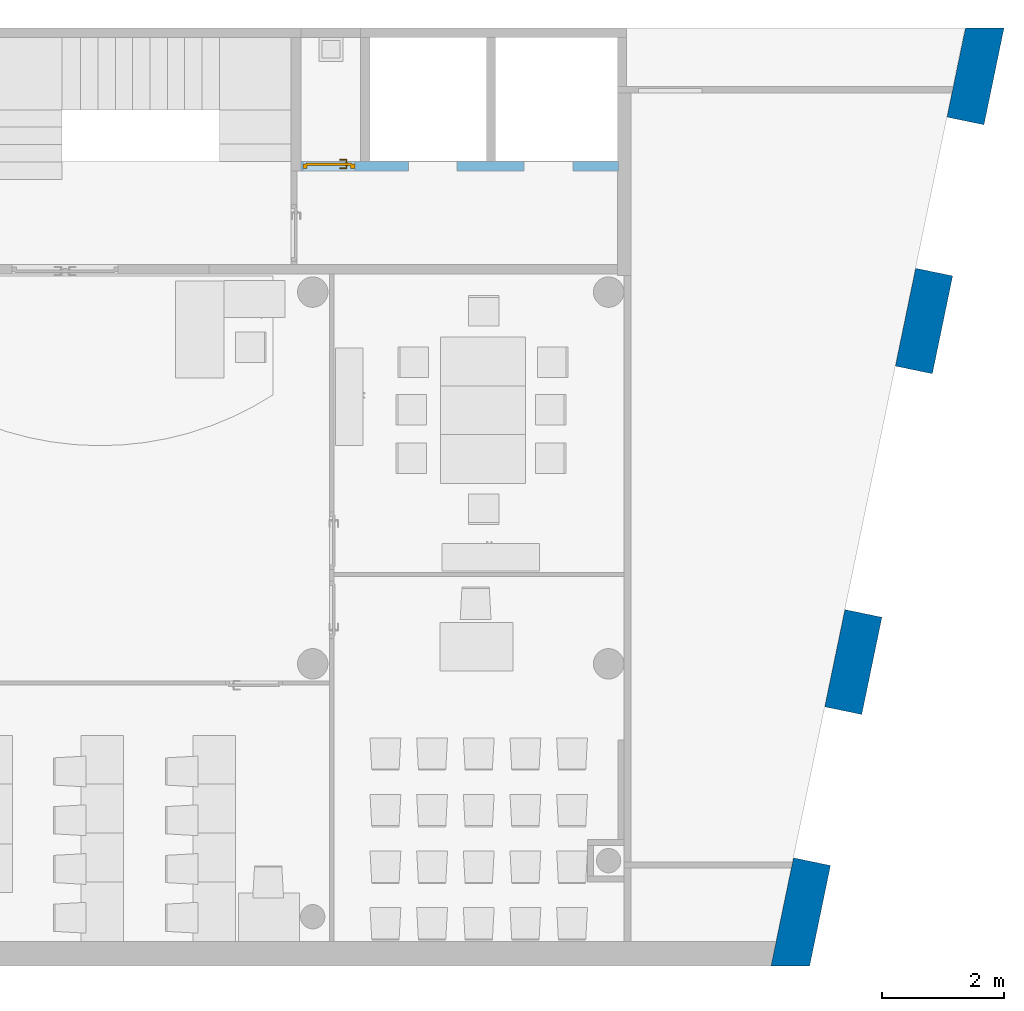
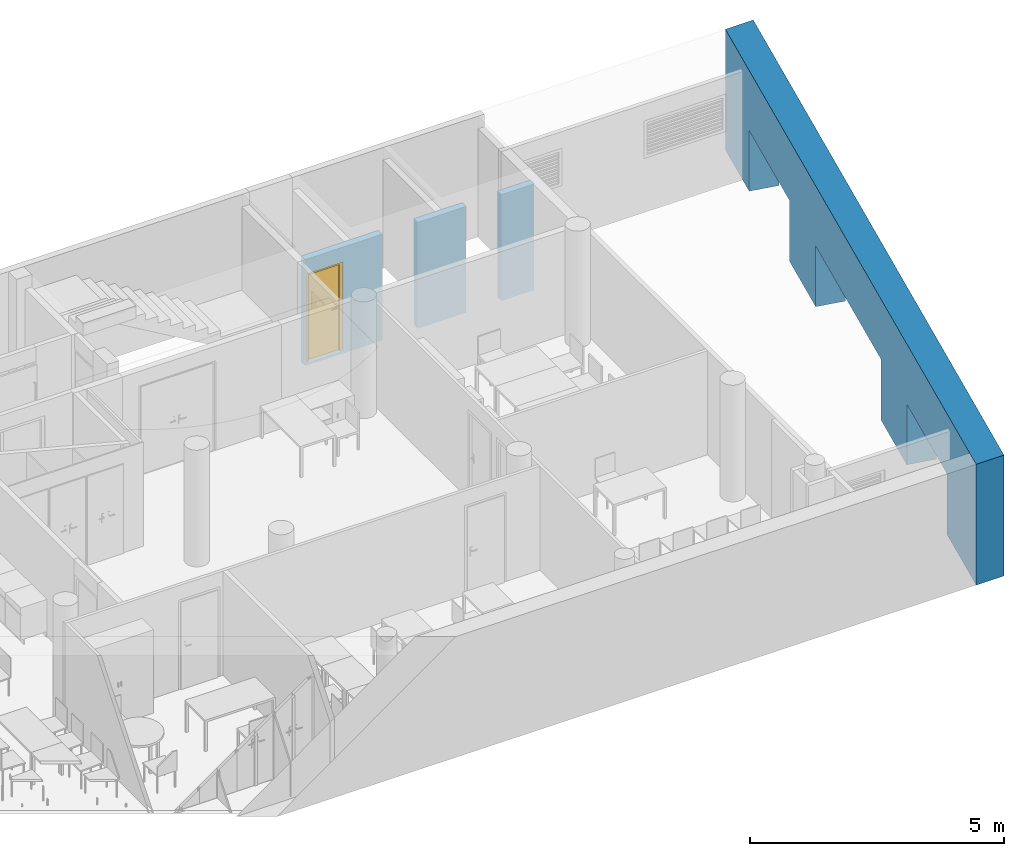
"""IFC4 building model written with IfcOpenShell, lengths in metres."""

import ifcopenshell
import ifcopenshell.guid

model = None  # the IFC model being written
_history = None  # IfcOwnerHistory: only IFC2X3 demands one
_inside = {}  # id of a spatial element -> (the spatial element, [elements in it])
_under = {}  # id of a project, library or spatial element -> (it, [spatial elements below it])
_declared = {}  # id of a project -> (the project, [libraries it declares])
_typed = {}  # id of a type object -> (the type object, [elements of that type])
_made_of = {}  # id of a material, layer set ... -> (it, [elements and type objects made of it])


def new_model(schema):
    """Start an empty IFC model of exactly this schema.

    Asked for "IFC4X3", IfcOpenShell would pick the latest addendum, in which some entities
    have other attributes; the version numbers below select the first issue.
    IFC2X3 requires an IfcOwnerHistory on every rooted entity: one is made here for all.
    """
    global model, _history
    if schema == "IFC4X3":
        model = ifcopenshell.file(schema_version=(4, 3, 0, 0))
    else:
        model = ifcopenshell.file(schema=schema)
    _inside.clear()
    _under.clear()
    _declared.clear()
    _typed.clear()
    _made_of.clear()
    _history = None
    if model.schema == "IFC2X3":
        org = make("IfcOrganization", Name="unknown")
        user = make(
            "IfcPersonAndOrganization",
            ThePerson=make("IfcPerson", FamilyName="unknown"),
            TheOrganization=org,
        )
        app = make(
            "IfcApplication",
            ApplicationDeveloper=org,
            Version="unknown",
            ApplicationFullName="unknown",
            ApplicationIdentifier="unknown",
        )
        _history = make(
            "IfcOwnerHistory",
            OwningUser=user,
            OwningApplication=app,
            ChangeAction="ADDED",
            CreationDate=0,
        )
    return model


def make(cls, **values):
    """One entity of the class cls with the attributes given. An attribute that is None is left unset."""
    return model.create_entity(
        cls, **{name: value for name, value in values.items() if value is not None}
    )


def entity(cls, *values):
    """Any entity or typed value of the class cls, its attributes in the order of the schema. None: left unset."""
    e = model.create_entity(cls)
    for i, value in enumerate(values):
        if value is not None:
            e[i] = value
    return e


def rooted(cls, **values):
    """An entity with a GlobalId (a new one), such as an element, a storey or a relation."""
    return make(cls, GlobalId=ifcopenshell.guid.new(), OwnerHistory=_history, **values)


def si_unit(unit_type, name, prefix=None):
    """IfcSIUnit, for example si_unit("LENGTHUNIT", "METRE", prefix="MILLI")."""
    return make("IfcSIUnit", UnitType=unit_type, Prefix=prefix, Name=name)


def converted_unit(unit_type, name, factor, base, dimensions=None, offset=None):
    """IfcConversionBasedUnit, such as the inch: factor (a typed value) times the base unit."""
    return make(
        "IfcConversionBasedUnit"
        if offset is None
        else "IfcConversionBasedUnitWithOffset",
        ConversionOffset=offset,
        Dimensions=None
        if dimensions is None
        else entity("IfcDimensionalExponents", *dimensions),
        UnitType=unit_type,
        Name=name,
        ConversionFactor=make(
            "IfcMeasureWithUnit", ValueComponent=factor, UnitComponent=base
        ),
    )


def derived_unit(unit_type, elements):
    """IfcDerivedUnit: a product of units, each with its exponent."""
    return make(
        "IfcDerivedUnit",
        Elements=[
            make("IfcDerivedUnitElement", Unit=unit, Exponent=power)
            for unit, power in elements
        ],
        UnitType=unit_type,
    )


def assignment(units):
    """IfcUnitAssignment: the units of a project."""
    return None if units is None else make("IfcUnitAssignment", Units=units)


def point(xyz):
    """IfcCartesianPoint."""
    return None if xyz is None else make("IfcCartesianPoint", Coordinates=xyz)


def direction(xyz):
    """IfcDirection."""
    return None if xyz is None else make("IfcDirection", DirectionRatios=xyz)


def frame(location, z_axis=None, x_axis=None):
    """IfcAxis2Placement3D, a coordinate frame: its origin and axes. An axis left out is left unset."""
    return make(
        "IfcAxis2Placement3D",
        Location=point(location),
        Axis=direction(z_axis),
        RefDirection=direction(x_axis),
    )


def frame_2d(location, x_axis=None):
    """IfcAxis2Placement2D, a coordinate frame in the plane: its origin and x axis."""
    return make(
        "IfcAxis2Placement2D", Location=point(location), RefDirection=direction(x_axis)
    )


def origin():
    """The frame at (0, 0, 0) with its axes left unset."""
    return frame((0.0, 0.0, 0.0))


def origin_with_axes():
    """The frame at (0, 0, 0) with the z axis (0, 0, 1) and the x axis (1, 0, 0) written out."""
    return frame((0.0, 0.0, 0.0), z_axis=(0.0, 0.0, 1.0), x_axis=(1.0, 0.0, 0.0))


def place(relative_to, where):
    """IfcLocalPlacement: puts the frame where relative to a parent placement (None: the world)."""
    return make(
        "IfcLocalPlacement", PlacementRelTo=relative_to, RelativePlacement=where
    )


def context(
    kind, dimensions, precision=None, world=None, true_north=None, identifier=None
):
    """IfcGeometricRepresentationContext, for example the 3D "Model" context."""
    return make(
        "IfcGeometricRepresentationContext",
        ContextIdentifier=identifier,
        ContextType=kind,
        CoordinateSpaceDimension=dimensions,
        Precision=precision,
        WorldCoordinateSystem=world,
        TrueNorth=true_north,
    )


def subcontext(parent, identifier, kind, view, scale=None):
    """IfcGeometricRepresentationSubContext, for example "Body" below "Model"."""
    return make(
        "IfcGeometricRepresentationSubContext",
        ContextIdentifier=identifier,
        ContextType=kind,
        ParentContext=parent,
        TargetScale=scale,
        TargetView=view,
    )


def project(units=None, contexts=None):
    """IfcProject with its units and contexts."""
    return rooted(
        "IfcProject",
        Name="project",
        RepresentationContexts=contexts,
        UnitsInContext=assignment(units),
    )


def spatial(cls, under=None, at=None, **own):
    """A site, building, storey or space (cls), placed at a placement, below another one or the project."""
    s = rooted(cls, ObjectPlacement=at, **own)
    if under is not None:
        _under.setdefault(under.id(), (under, []))[1].append(s)
    return s


def polyline(points):
    """IfcPolyline through the points."""
    return make("IfcPolyline", Points=[point(p) for p in points])


def profile(cls, at=None, kind="AREA", **sizes):
    """A parametric profile (cls). Its sizes go by their IFC names, for example OverallWidth=200.0."""
    return make(cls, ProfileType=kind, Position=at, **sizes)


def rectangle(**sizes):
    """IfcRectangleProfileDef."""
    return profile("IfcRectangleProfileDef", **sizes)


def outline(outer, holes=None, kind="AREA"):
    """IfcArbitraryClosedProfileDef: a profile drawn as a closed curve; with holes, ...WithVoids."""
    if holes is None:
        return make("IfcArbitraryClosedProfileDef", ProfileType=kind, OuterCurve=outer)
    return make(
        "IfcArbitraryProfileDefWithVoids",
        ProfileType=kind,
        OuterCurve=outer,
        InnerCurves=holes,
    )


def extrude(swept, where, along, depth):
    """IfcExtrudedAreaSolid: the profile swept, set in the frame where, extruded along a direction by depth."""
    return make(
        "IfcExtrudedAreaSolid",
        SweptArea=swept,
        Position=where,
        ExtrudedDirection=direction(along),
        Depth=depth,
    )


def faces_of(points, faces, orient=None, outer=None):
    """IfcFace entities. A face is a list of loops; a loop is a list of indices into points, from 0.

    orient and outer hold one flag for each loop. By default every Orientation is true, the
    first loop of a face is its IfcFaceOuterBound and the others are IfcFaceBound.
    """
    made = []
    for i, loops in enumerate(faces):
        bounds = []
        for j, loop in enumerate(loops):
            is_outer = j == 0 if outer is None else outer[i][j]
            bounds.append(
                make(
                    "IfcFaceOuterBound" if is_outer else "IfcFaceBound",
                    Bound=make("IfcPolyLoop", Polygon=[points[k] for k in loop]),
                    Orientation=True if orient is None else orient[i][j],
                )
            )
        made.append(make("IfcFace", Bounds=bounds))
    return made


def faceted_brep(points, faces, orient=None, outer=None, voids=None):
    """IfcFacetedBrep: a solid bounded by flat faces; with voids (closed shells), ...WithVoids."""
    shared = [point(p) for p in points]
    hull = make("IfcClosedShell", CfsFaces=faces_of(shared, faces, orient, outer))
    if voids is None:
        return make("IfcFacetedBrep", Outer=hull)
    return make(
        "IfcFacetedBrepWithVoids",
        Outer=hull,
        Voids=[
            make(cls, CfsFaces=faces_of(shared, fs, o, b)) for cls, fs, o, b in voids
        ],
    )


def shape(context_of_items, identifier, shape_type, items):
    """IfcShapeRepresentation: the items that make up one representation, for example the "Body"."""
    return make(
        "IfcShapeRepresentation",
        ContextOfItems=context_of_items,
        RepresentationIdentifier=identifier,
        RepresentationType=shape_type,
        Items=items,
    )


def source(mapping_origin, context_of_items, identifier, shape_type, items):
    """IfcRepresentationMap: a shape defined once, which mapped items show again and again."""
    return make(
        "IfcRepresentationMap",
        MappingOrigin=mapping_origin,
        MappedRepresentation=shape(context_of_items, identifier, shape_type, items),
    )


def transform(
    local_origin,
    x_axis=None,
    y_axis=None,
    z_axis=None,
    scale=None,
    scale2=None,
    scale3=None,
    uniform=True,
):
    """IfcCartesianTransformationOperator3D, or its non-uniform kind. x_axis, y_axis, z_axis: its Axis1, 2, 3."""
    if uniform:
        return make(
            "IfcCartesianTransformationOperator3D",
            Axis1=direction(x_axis),
            Axis2=direction(y_axis),
            LocalOrigin=point(local_origin),
            Scale=scale,
            Axis3=direction(z_axis),
        )
    return make(
        "IfcCartesianTransformationOperator3DnonUniform",
        Axis1=direction(x_axis),
        Axis2=direction(y_axis),
        LocalOrigin=point(local_origin),
        Scale=scale,
        Axis3=direction(z_axis),
        Scale2=scale2,
        Scale3=scale3,
    )


def mapped(mapping_source, mapping_target):
    """IfcMappedItem: shows the shape of a source again, moved by a transform."""
    return make(
        "IfcMappedItem", MappingSource=mapping_source, MappingTarget=mapping_target
    )


def material(Name=None, Category=None):
    """IfcMaterial."""
    return make("IfcMaterial", Name=Name, Category=Category)


def layer(
    of_material, thickness, ventilated=None, Name=None, Category=None, Priority=None
):
    """IfcMaterialLayer: one layer of a wall or slab, of a material (None: an air gap)."""
    return make(
        "IfcMaterialLayer",
        Material=of_material,
        LayerThickness=thickness,
        IsVentilated=ventilated,
        Name=Name,
        Category=Category,
        Priority=Priority,
    )


def layer_set(layers, Name=None):
    """IfcMaterialLayerSet."""
    return make("IfcMaterialLayerSet", MaterialLayers=layers, LayerSetName=Name)


def layer_usage(for_layer_set, set_direction, sense, offset, extent=None):
    """IfcMaterialLayerSetUsage: how a layer set lies in its element."""
    return make(
        "IfcMaterialLayerSetUsage",
        ForLayerSet=for_layer_set,
        LayerSetDirection=set_direction,
        DirectionSense=sense,
        OffsetFromReferenceLine=offset,
        ReferenceExtent=extent,
    )


def made_of(thing, what):
    """Note that an element or type object is made of a material, layer set ...; save() writes the relation."""
    if what is not None:
        _made_of.setdefault(what.id(), (what, []))[1].append(thing)
    return thing


def element(
    cls,
    number,
    at=None,
    inside=None,
    cuts=None,
    type_object=None,
    material=None,
    context=None,
    identifier="Body",
    shape_type=None,
    held_by="IfcProductDefinitionShape",
    body=None,
    shapes=None,
    **own,
):
    """One element of the class cls, such as IfcWall. Its Tag is "e" and its number.

    at: its placement. inside: the storey or other place that contains it. cuts: it is an
    opening in that element (IfcRelVoidsElement). A single representation is given by context,
    identifier, shape_type and body (its items); several are given by shapes. held_by: the class
    of the entity that holds the representations. save() writes the other relations.
    """
    e = rooted(cls, Tag="e%d" % number, ObjectPlacement=at, **own)
    if body is not None:
        shapes = [shape(context, identifier, shape_type, body)]
    if shapes is not None:
        e.Representation = make(held_by, Representations=shapes)
    if inside is not None:
        _inside.setdefault(inside.id(), (inside, []))[1].append(e)
    if cuts is not None:
        rooted(
            "IfcRelVoidsElement", RelatingBuildingElement=cuts, RelatedOpeningElement=e
        )
    if type_object is not None:
        _typed.setdefault(type_object.id(), (type_object, []))[1].append(e)
    return made_of(e, material)


def fill(opening, filler):
    """IfcRelFillsElement: the door or window that sits in an opening."""
    return rooted(
        "IfcRelFillsElement",
        RelatingOpeningElement=opening,
        RelatedBuildingElement=filler,
    )


def aggregate(whole, parts):
    """IfcRelAggregates: a whole, such as a stair, and the parts it consists of."""
    return rooted("IfcRelAggregates", RelatingObject=whole, RelatedObjects=parts)


def save(model, path):
    """Write the relations noted so far, then the file.

    IfcRelAggregates (storeys below a building ...), IfcRelContainedInSpatialStructure (elements
    in a storey), IfcRelDefinesByType, IfcRelAssociatesMaterial and IfcRelDeclares: one each for
    every whole, place, type object, material and project.
    """
    for whole, parts in _under.values():
        aggregate(whole, parts)
    for where, things in _inside.values():
        rooted(
            "IfcRelContainedInSpatialStructure",
            RelatedElements=things,
            RelatingStructure=where,
        )
    for kind, things in _typed.values():
        rooted("IfcRelDefinesByType", RelatedObjects=things, RelatingType=kind)
    for what, things in _made_of.values():
        rooted("IfcRelAssociatesMaterial", RelatedObjects=things, RelatingMaterial=what)
    for by, libraries in _declared.values():
        rooted("IfcRelDeclares", RelatingContext=by, RelatedDefinitions=libraries)
    model.write(path)


model = new_model("IFC4")

# Units and contexts
model_context = context("Model", 3, precision=1e-05, world=origin())
body_context = subcontext(model_context, "Body", "Model", "MODEL_VIEW")
ifc_project = project(units=[si_unit("LENGTHUNIT", "METRE"), si_unit("AREAUNIT", "SQUARE_METRE"), si_unit("VOLUMEUNIT", "CUBIC_METRE"), si_unit("MASSUNIT", "GRAM", prefix="KILO"), converted_unit("PLANEANGLEUNIT", "DEGREE", entity("IfcPlaneAngleMeasure", 0.0174532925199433), si_unit("PLANEANGLEUNIT", "RADIAN"), dimensions=[0, 0, 0, 0, 0, 0, 0]), derived_unit("THERMALTRANSMITTANCEUNIT", [(si_unit("POWERUNIT", "WATT"), 1), (si_unit("THERMODYNAMICTEMPERATUREUNIT", "KELVIN"), -1), (si_unit("LENGTHUNIT", "METRE"), -2)]), derived_unit("VOLUMETRICFLOWRATEUNIT", [(si_unit("LENGTHUNIT", "METRE"), 3), (converted_unit("TIMEUNIT", "hour", entity("IfcTimeMeasure", 3600.0), si_unit("TIMEUNIT", "SECOND"), dimensions=[0, 0, 1, 0, 0, 0, 0]), -1), (si_unit("LENGTHUNIT", "METRE"), -1)])], contexts=[model_context])

# Building, storeys
building_placement = place(None, origin())
building = spatial("IfcBuilding", under=ifc_project, at=building_placement, Name="HABITATGE PLURIFAMILIAR", CompositionType="ELEMENT")
storey_1_placement = place(building_placement, frame((0.0, 0.0, 3.35)))
storey_1 = spatial("IfcBuildingStorey", under=building, at=storey_1_placement, Name="PLANTA  ALTELL", CompositionType="ELEMENT", Elevation=3.35)
storey_2_placement = place(storey_1_placement, origin())
storey_2 = spatial("IfcBuildingStorey", under=storey_1, at=storey_2_placement, Name="NOU", CompositionType="PARTIAL")

# Wall, openings, door
ifc_material = material()
ifc_layer = layer(ifc_material, 0.15)
ifc_layer_set = layer_set([ifc_layer])
ifc_layer_usage = layer_usage(ifc_layer_set, "AXIS2", "POSITIVE", 0.0)
wall_1_placement = place(storey_2_placement, frame((415.946931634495, 25.8895914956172, -0.05)))
wall_1 = element("IfcWall", 1, at=wall_1_placement, inside=storey_2, material=ifc_layer_usage, Name="Evans PA", context=body_context, shape_type="SweptSolid", body=[
    extrude(rectangle(XDim=5.20364709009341, YDim=0.15, at=frame_2d((2.6018235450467, 0.075), x_axis=(1.0, 0.0))), origin_with_axes(), (0.0, 0.0, 1.0), 2.55),
])
opening_1_placement = place(wall_1_placement, frame((3.66000000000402, 0.0, 0.0), z_axis=(0.0, 1.0, 0.0), x_axis=(0.0, 0.0, 1.0)))
element("IfcOpeningElement", 2, at=opening_1_placement, cuts=wall_1, Name="Vano de puerta PA", ObjectType="Opening", context=body_context, shape_type="SweptSolid", body=[
    extrude(outline(polyline([(2.55, 0.8), (2.55, 0.0), (0.0, 0.0), (0.0, 0.8), (2.55, 0.8)])), origin_with_axes(), (0.0, 0.0, 1.0), 0.15),
])
opening_2_placement = place(wall_1_placement, frame((0.0300832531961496, 0.0, 0.05), z_axis=(0.0, 1.0, 0.0), x_axis=(0.0, 0.0, 1.0)))
opening_2 = element("IfcOpeningElement", 3, at=opening_2_placement, cuts=wall_1, Name="Vano de puerta PA", ObjectType="Opening", context=body_context, shape_type="SweptSolid", body=[
    extrude(outline(polyline([(2.15, 0.849991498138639), (2.15, 0.0), (0.0, 0.0), (0.0, 0.849991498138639), (2.15, 0.849991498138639)])), origin_with_axes(), (0.0, 0.0, 1.0), 0.15),
])
opening_3_placement = place(wall_1_placement, frame((1.76000000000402, 0.0, 0.0), z_axis=(0.0, 1.0, 0.0), x_axis=(0.0, 0.0, 1.0)))
element("IfcOpeningElement", 4, at=opening_3_placement, cuts=wall_1, Name="Vano de puerta PA", ObjectType="Opening", context=body_context, shape_type="SweptSolid", body=[
    extrude(outline(polyline([(2.55, 0.8), (2.55, 0.0), (0.0, 0.0), (0.0, 0.8), (2.55, 0.8)])), origin_with_axes(), (0.0, 0.0, 1.0), 0.15),
])
shared_shape = source(origin_with_axes(), body_context, "Body", "Brep", [
    faceted_brep([(0.849991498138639, 0.07, 2.15), (0.779991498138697, 0.07, 2.15), (0.779991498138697, 0.07, 0.0), (0.849991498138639, 0.07, 0.0), (0.849991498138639, 0.0, 0.0), (0.779991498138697, 0.0, 0.0), (0.779991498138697, 0.0, 2.15), (0.849991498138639, 0.0, 2.15)], [[[0, 1, 2, 3]], [[4, 5, 6, 7]], [[3, 4, 7, 0]], [[2, 5, 4, 3]], [[1, 6, 5, 2]], [[0, 7, 6, 1]]], orient=[[False], [False], [False], [False], [False], [False]]),
    faceted_brep([(0.0699999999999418, 0.07, 2.15), (0.0, 0.07, 2.15), (0.0, 0.07, 0.0), (0.0699999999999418, 0.07, 0.0), (0.0699999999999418, 0.0, 0.0), (0.0, 0.0, 0.0), (0.0, 0.0, 2.15), (0.0699999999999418, 0.0, 2.15)], [[[0, 1, 2, 3]], [[4, 5, 6, 7]], [[3, 4, 7, 0]], [[2, 5, 4, 3]], [[1, 6, 5, 2]], [[0, 7, 6, 1]]], orient=[[False], [False], [False], [False], [False], [False]]),
    faceted_brep([(0.779991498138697, 0.07, 2.15), (0.0699999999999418, 0.07, 2.15), (0.0699999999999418, 0.07, 2.08), (0.779991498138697, 0.07, 2.08), (0.779991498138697, 0.0, 2.08), (0.0699999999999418, 0.0, 2.08), (0.0699999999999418, 0.0, 2.15), (0.779991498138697, 0.0, 2.15)], [[[0, 1, 2, 3]], [[4, 5, 6, 7]], [[3, 4, 7, 0]], [[2, 5, 4, 3]], [[1, 6, 5, 2]], [[0, 7, 6, 1]]], orient=[[False], [False], [False], [False], [False], [False]]),
    faceted_brep([(0.799991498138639, 0.09, 2.1), (0.05, 0.09, 2.1), (0.05, 0.09, 0.0), (0.799991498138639, 0.09, 0.0), (0.799991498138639, 0.05, 0.0), (0.05, 0.05, 0.0), (0.05, 0.05, 2.1), (0.799991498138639, 0.05, 2.1)], [[[0, 1, 2, 3]], [[4, 5, 6, 7]], [[3, 4, 7, 0]], [[2, 5, 4, 3]], [[1, 6, 5, 2]], [[0, 7, 6, 1]]], orient=[[False], [False], [False], [False], [False], [False]]),
    faceted_brep([(0.739991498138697, 0.05, 1.125), (0.689991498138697, 0.05, 1.125), (0.689991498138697, 0.05, 0.91), (0.739991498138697, 0.05, 0.91), (0.739991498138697, 0.04, 0.91), (0.689991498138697, 0.04, 0.91), (0.689991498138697, 0.04, 1.125), (0.739991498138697, 0.04, 1.125)], [[[0, 1, 2, 3]], [[4, 5, 6, 7]], [[3, 4, 7, 0]], [[2, 5, 4, 3]], [[1, 6, 5, 2]], [[0, 7, 6, 1]]], orient=[[False], [False], [False], [False], [False], [False]]),
    faceted_brep([(0.714991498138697, 0.04, 1.06), (0.709991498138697, 0.04, 1.05866025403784), (0.706331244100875, 0.04, 1.055), (0.704991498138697, 0.04, 1.05), (0.706331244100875, 0.04, 1.045), (0.709991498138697, 0.04, 1.04133974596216), (0.714991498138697, 0.04, 1.04), (0.719991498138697, 0.04, 1.04133974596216), (0.72365175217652, 0.04, 1.045), (0.724991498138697, 0.04, 1.05), (0.72365175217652, 0.04, 1.055), (0.719991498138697, 0.04, 1.05866025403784), (0.719991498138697, -0.005, 1.05866025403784), (0.714991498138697, 0.0, 1.06), (0.72365175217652, -0.00866025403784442, 1.055), (0.724991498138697, -0.01, 1.05), (0.72365175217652, -0.00866025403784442, 1.045), (0.719991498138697, -0.005, 1.04133974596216), (0.714991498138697, 0.0, 1.04), (0.709991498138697, 0.005, 1.04133974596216), (0.706331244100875, 0.00866025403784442, 1.045), (0.704991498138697, 0.01, 1.05), (0.706331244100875, 0.00866025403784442, 1.055), (0.709991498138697, 0.005, 1.05866025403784), (0.599991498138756, 0.0, 1.06), (0.599991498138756, -0.005, 1.05866025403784), (0.599991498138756, -0.00866025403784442, 1.055), (0.599991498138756, -0.01, 1.05), (0.599991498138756, -0.00866025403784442, 1.045), (0.599991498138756, -0.005, 1.04133974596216), (0.599991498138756, 0.0, 1.04), (0.599991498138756, 0.005, 1.04133974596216), (0.599991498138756, 0.00866025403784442, 1.045), (0.599991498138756, 0.01, 1.05), (0.599991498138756, 0.00866025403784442, 1.055), (0.599991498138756, 0.005, 1.05866025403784)], [[[0, 1, 2, 3, 4, 5, 6, 7, 8, 9, 10, 11]], [[0, 11, 12, 13]], [[11, 10, 14, 12]], [[10, 9, 15, 14]], [[9, 8, 16, 15]], [[8, 7, 17, 16]], [[7, 6, 18, 17]], [[6, 5, 19, 18]], [[5, 4, 20, 19]], [[4, 3, 21, 20]], [[3, 2, 22, 21]], [[2, 1, 23, 22]], [[1, 0, 13, 23]], [[24, 25, 26, 27, 28, 29, 30, 31, 32, 33, 34, 35]], [[13, 12, 25, 24]], [[12, 14, 26, 25]], [[14, 15, 27, 26]], [[15, 16, 28, 27]], [[16, 17, 29, 28]], [[17, 18, 30, 29]], [[18, 19, 31, 30]], [[19, 20, 32, 31]], [[20, 21, 33, 32]], [[21, 22, 34, 33]], [[22, 23, 35, 34]], [[23, 13, 24, 35]]], orient=[[False], [False], [False], [False], [False], [False], [False], [False], [False], [False], [False], [False], [False], [False], [False], [False], [False], [False], [False], [False], [False], [False], [False], [False], [False], [False]]),
    faceted_brep([(0.739991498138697, 0.09, 1.125), (0.739991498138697, 0.09, 0.91), (0.689991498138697, 0.09, 0.91), (0.689991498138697, 0.09, 1.125), (0.739991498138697, 0.1, 0.91), (0.739991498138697, 0.1, 1.125), (0.689991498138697, 0.1, 1.125), (0.689991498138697, 0.1, 0.91)], [[[0, 1, 2, 3]], [[4, 5, 6, 7]], [[1, 0, 5, 4]], [[2, 1, 4, 7]], [[3, 2, 7, 6]], [[0, 3, 6, 5]]], orient=[[False], [False], [False], [False], [False], [False]]),
    faceted_brep([(0.714991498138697, 0.1, 1.06), (0.719991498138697, 0.1, 1.05866025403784), (0.72365175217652, 0.1, 1.055), (0.724991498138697, 0.1, 1.05), (0.72365175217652, 0.1, 1.045), (0.719991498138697, 0.1, 1.04133974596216), (0.714991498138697, 0.1, 1.04), (0.709991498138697, 0.1, 1.04133974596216), (0.706331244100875, 0.1, 1.045), (0.704991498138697, 0.1, 1.05), (0.706331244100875, 0.1, 1.055), (0.709991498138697, 0.1, 1.05866025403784), (0.714991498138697, 0.14, 1.06), (0.719991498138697, 0.145, 1.05866025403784), (0.72365175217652, 0.148660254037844, 1.055), (0.724991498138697, 0.15, 1.05), (0.72365175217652, 0.148660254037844, 1.045), (0.719991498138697, 0.145, 1.04133974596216), (0.714991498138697, 0.14, 1.04), (0.709991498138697, 0.135, 1.04133974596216), (0.706331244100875, 0.131339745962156, 1.045), (0.704991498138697, 0.13, 1.05), (0.706331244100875, 0.131339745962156, 1.055), (0.709991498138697, 0.135, 1.05866025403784), (0.599991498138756, 0.14, 1.06), (0.599991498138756, 0.135, 1.05866025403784), (0.599991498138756, 0.131339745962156, 1.055), (0.599991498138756, 0.13, 1.05), (0.599991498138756, 0.131339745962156, 1.045), (0.599991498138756, 0.135, 1.04133974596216), (0.599991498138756, 0.14, 1.04), (0.599991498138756, 0.145, 1.04133974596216), (0.599991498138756, 0.148660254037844, 1.045), (0.599991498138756, 0.15, 1.05), (0.599991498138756, 0.148660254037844, 1.055), (0.599991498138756, 0.145, 1.05866025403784)], [[[0, 1, 2, 3, 4, 5, 6, 7, 8, 9, 10, 11]], [[0, 12, 13, 1]], [[1, 13, 14, 2]], [[2, 14, 15, 3]], [[3, 15, 16, 4]], [[4, 16, 17, 5]], [[5, 17, 18, 6]], [[6, 18, 19, 7]], [[7, 19, 20, 8]], [[8, 20, 21, 9]], [[9, 21, 22, 10]], [[10, 22, 23, 11]], [[11, 23, 12, 0]], [[24, 25, 26, 27, 28, 29, 30, 31, 32, 33, 34, 35]], [[12, 24, 35, 13]], [[13, 35, 34, 14]], [[14, 34, 33, 15]], [[15, 33, 32, 16]], [[16, 32, 31, 17]], [[17, 31, 30, 18]], [[18, 30, 29, 19]], [[19, 29, 28, 20]], [[20, 28, 27, 21]], [[21, 27, 26, 22]], [[22, 26, 25, 23]], [[23, 25, 24, 12]]], orient=[[False], [False], [False], [False], [False], [False], [False], [False], [False], [False], [False], [False], [False], [False], [False], [False], [False], [False], [False], [False], [False], [False], [False], [False], [False], [False]]),
])
door_placement = place(opening_2_placement, frame((0.0, 0.0, 0.04), z_axis=(1.0, 0.0, 0.0), x_axis=(0.0, 1.0, 0.0)))
door = element("IfcDoor", 5, at=door_placement, inside=storey_2, Name="Porta PA", OperationType="USERDEFINED", OverallHeight=2.15, OverallWidth=0.84999, PredefinedType="DOOR", context=body_context, shape_type="MappedRepresentation", body=[
    mapped(shared_shape, transform((0.0, 0.0, 0.0), x_axis=(1.0, 0.0, 0.0), y_axis=(0.0, 1.0, 0.0), z_axis=(0.0, 0.0, 1.0), scale=1.0)),
])
fill(opening_2, door)

# Wall, openings
wall_2_placement = place(storey_2_placement, frame((423.657482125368, 12.8406121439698, -0.1)))
wall_2 = element("IfcWall", 6, at=wall_2_placement, inside=storey_2, Name="Façana sur-est PA", context=body_context, shape_type="Brep", body=[
    faceted_brep([(0.333912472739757, 1.60898022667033, 0.05), (0.333444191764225, 1.60898022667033, 0.05), (0.354168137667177, 1.70898022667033, 0.05), (0.354615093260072, 1.70898022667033, 0.05), (0.354615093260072, 1.70898022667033, 2.6), (0.354168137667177, 1.70898022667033, 2.6), (0.333444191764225, 1.60898022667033, 2.6), (0.333912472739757, 1.60898022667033, 2.6), (0.715947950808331, 0.4, 0.0), (0.633173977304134, 0.0, 0.0), (0.633173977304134, 0.0, 2.9), (0.715947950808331, 0.4, 2.9), (0.0, 0.0, 0.0), (0.0, 0.0, 2.9), (3.18930625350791, 15.3894739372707, 0.0), (3.18930625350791, 15.3894739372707, 2.9), (3.82248057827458, 15.3894756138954, 0.0), (3.82248057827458, 15.3894756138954, 2.9), (0.716069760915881, 0.4, 0.0), (0.716069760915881, 0.4, 2.9)], [[[0, 1, 2, 3]], [[4, 5, 6, 7]], [[7, 0, 3, 4]], [[4, 3, 2, 5]], [[6, 1, 0, 7]], [[8, 9, 10, 11]], [[9, 12, 13, 10]], [[12, 14, 15, 13], [1, 6, 5, 2]], [[14, 16, 17, 15]], [[16, 18, 19, 17]], [[18, 8, 11, 19]], [[19, 11, 10, 13, 15, 17]], [[8, 18, 16, 14, 12, 9]]], orient=[[False], [False], [False], [False], [False], [False], [False], [False, False], [False], [False], [False], [False], [False]]),
])
opening_4_placement = place(wall_2_placement, frame((0.975082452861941, 1.64982323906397, 0.0), z_axis=(-0.979193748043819, 0.202927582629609, 0.0), x_axis=(0.0, 0.0, 1.0)))
element("IfcOpeningElement", 7, at=opening_4_placement, cuts=wall_2, Name="Vano de puerta PA", ObjectType="Opening", context=body_context, shape_type="SweptSolid", body=[
    extrude(outline(polyline([(1.46, 2.53003720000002), (1.46, 0.0), (0.0, 0.0), (0.0, 2.53003720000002), (1.46, 2.53003720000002)])), origin_with_axes(), (0.0, 0.0, 1.0), 0.620000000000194),
])
opening_5_placement = place(wall_2_placement, frame((1.81926542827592, 5.72328965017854, 0.0), z_axis=(-0.979193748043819, 0.202927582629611, 0.0), x_axis=(0.0, 0.0, 1.0)))
element("IfcOpeningElement", 8, at=opening_5_placement, cuts=wall_2, Name="Vano de puerta PA", ObjectType="Opening", context=body_context, shape_type="SweptSolid", body=[
    extrude(outline(polyline([(1.46, 4.07995910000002), (1.46, 0.0), (0.0, 0.0), (0.0, 4.07995910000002), (1.46, 4.07995910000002)])), origin_with_axes(), (0.0, 0.0, 1.0), 0.620000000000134),
])
opening_6_placement = place(wall_2_placement, frame((2.97999956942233, 11.324221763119, 0.0), z_axis=(-0.979193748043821, 0.202927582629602, 0.0), x_axis=(0.0, 0.0, 1.0)))
element("IfcOpeningElement", 9, at=opening_6_placement, cuts=wall_2, Name="Vano de puerta PA", ObjectType="Opening", context=body_context, shape_type="SweptSolid", body=[
    extrude(outline(polyline([(1.46, 2.5319048), (1.46, 0.0), (0.0, 0.0), (0.0, 2.5319048), (1.46, 2.5319048)])), origin_with_axes(), (0.0, 0.0, 1.0), 0.620000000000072),
])

save(model, "model.ifc")
